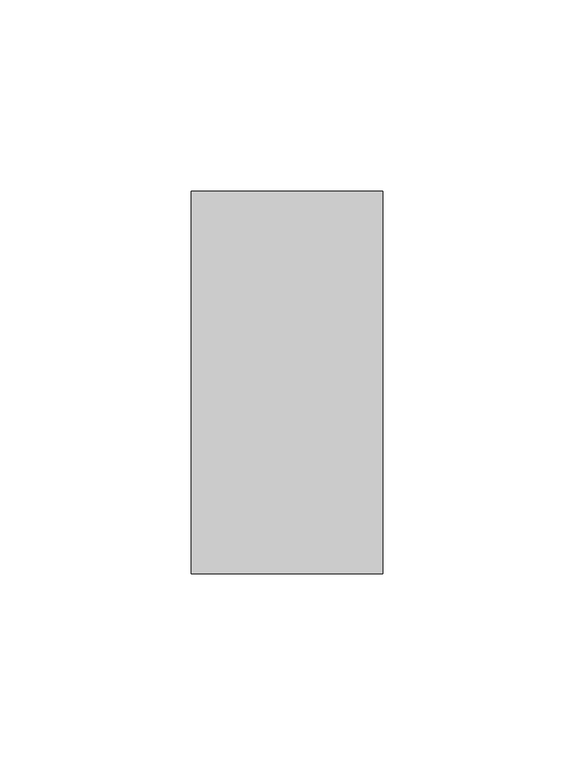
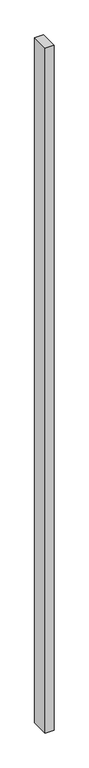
"""IFC4 building model written with IfcOpenShell, lengths in millimetres: member geometry, Прямоугольный импост : 50х100."""

import ifcopenshell
import ifcopenshell.guid

model = None  # the IFC model being written
_history = None  # IfcOwnerHistory: only IFC2X3 demands one
_inside = {}  # id of a spatial element -> (the spatial element, [elements in it])
_under = {}  # id of a project, library or spatial element -> (it, [spatial elements below it])
_declared = {}  # id of a project -> (the project, [libraries it declares])
_typed = {}  # id of a type object -> (the type object, [elements of that type])
_made_of = {}  # id of a material, layer set ... -> (it, [elements and type objects made of it])


def new_model(schema):
    """Start an empty IFC model of exactly this schema.

    Asked for "IFC4X3", IfcOpenShell would pick the latest addendum, in which some entities
    have other attributes; the version numbers below select the first issue.
    IFC2X3 requires an IfcOwnerHistory on every rooted entity: one is made here for all.
    """
    global model, _history
    if schema == "IFC4X3":
        model = ifcopenshell.file(schema_version=(4, 3, 0, 0))
    else:
        model = ifcopenshell.file(schema=schema)
    _inside.clear()
    _under.clear()
    _declared.clear()
    _typed.clear()
    _made_of.clear()
    _history = None
    if model.schema == "IFC2X3":
        org = make("IfcOrganization", Name="unknown")
        user = make(
            "IfcPersonAndOrganization",
            ThePerson=make("IfcPerson", FamilyName="unknown"),
            TheOrganization=org,
        )
        app = make(
            "IfcApplication",
            ApplicationDeveloper=org,
            Version="unknown",
            ApplicationFullName="unknown",
            ApplicationIdentifier="unknown",
        )
        _history = make(
            "IfcOwnerHistory",
            OwningUser=user,
            OwningApplication=app,
            ChangeAction="ADDED",
            CreationDate=0,
        )
    return model


def make(cls, **values):
    """One entity of the class cls with the attributes given. An attribute that is None is left unset."""
    return model.create_entity(
        cls, **{name: value for name, value in values.items() if value is not None}
    )


def rooted(cls, **values):
    """An entity with a GlobalId (a new one), such as an element, a storey or a relation."""
    return make(cls, GlobalId=ifcopenshell.guid.new(), OwnerHistory=_history, **values)


def si_unit(unit_type, name, prefix=None):
    """IfcSIUnit, for example si_unit("LENGTHUNIT", "METRE", prefix="MILLI")."""
    return make("IfcSIUnit", UnitType=unit_type, Prefix=prefix, Name=name)


def assignment(units):
    """IfcUnitAssignment: the units of a project."""
    return None if units is None else make("IfcUnitAssignment", Units=units)


def point(xyz):
    """IfcCartesianPoint."""
    return None if xyz is None else make("IfcCartesianPoint", Coordinates=xyz)


def direction(xyz):
    """IfcDirection."""
    return None if xyz is None else make("IfcDirection", DirectionRatios=xyz)


def frame(location, z_axis=None, x_axis=None):
    """IfcAxis2Placement3D, a coordinate frame: its origin and axes. An axis left out is left unset."""
    return make(
        "IfcAxis2Placement3D",
        Location=point(location),
        Axis=direction(z_axis),
        RefDirection=direction(x_axis),
    )


def origin():
    """The frame at (0, 0, 0) with its axes left unset."""
    return frame((0.0, 0.0, 0.0))


def place(relative_to, where):
    """IfcLocalPlacement: puts the frame where relative to a parent placement (None: the world)."""
    return make(
        "IfcLocalPlacement", PlacementRelTo=relative_to, RelativePlacement=where
    )


def context(
    kind, dimensions, precision=None, world=None, true_north=None, identifier=None
):
    """IfcGeometricRepresentationContext, for example the 3D "Model" context."""
    return make(
        "IfcGeometricRepresentationContext",
        ContextIdentifier=identifier,
        ContextType=kind,
        CoordinateSpaceDimension=dimensions,
        Precision=precision,
        WorldCoordinateSystem=world,
        TrueNorth=true_north,
    )


def project(units=None, contexts=None):
    """IfcProject with its units and contexts."""
    return rooted(
        "IfcProject",
        Name="project",
        RepresentationContexts=contexts,
        UnitsInContext=assignment(units),
    )


def spatial(cls, under=None, at=None, **own):
    """A site, building, storey or space (cls), placed at a placement, below another one or the project."""
    s = rooted(cls, ObjectPlacement=at, **own)
    if under is not None:
        _under.setdefault(under.id(), (under, []))[1].append(s)
    return s


def polyline(points):
    """IfcPolyline through the points."""
    return make("IfcPolyline", Points=[point(p) for p in points])


def outline(outer, holes=None, kind="AREA"):
    """IfcArbitraryClosedProfileDef: a profile drawn as a closed curve; with holes, ...WithVoids."""
    if holes is None:
        return make("IfcArbitraryClosedProfileDef", ProfileType=kind, OuterCurve=outer)
    return make(
        "IfcArbitraryProfileDefWithVoids",
        ProfileType=kind,
        OuterCurve=outer,
        InnerCurves=holes,
    )


def extrude(swept, where, along, depth):
    """IfcExtrudedAreaSolid: the profile swept, set in the frame where, extruded along a direction by depth."""
    return make(
        "IfcExtrudedAreaSolid",
        SweptArea=swept,
        Position=where,
        ExtrudedDirection=direction(along),
        Depth=depth,
    )


def shape(context_of_items, identifier, shape_type, items):
    """IfcShapeRepresentation: the items that make up one representation, for example the "Body"."""
    return make(
        "IfcShapeRepresentation",
        ContextOfItems=context_of_items,
        RepresentationIdentifier=identifier,
        RepresentationType=shape_type,
        Items=items,
    )


def source(mapping_origin, context_of_items, identifier, shape_type, items):
    """IfcRepresentationMap: a shape defined once, which mapped items show again and again."""
    return make(
        "IfcRepresentationMap",
        MappingOrigin=mapping_origin,
        MappedRepresentation=shape(context_of_items, identifier, shape_type, items),
    )


def transform(
    local_origin,
    x_axis=None,
    y_axis=None,
    z_axis=None,
    scale=None,
    scale2=None,
    scale3=None,
    uniform=True,
):
    """IfcCartesianTransformationOperator3D, or its non-uniform kind. x_axis, y_axis, z_axis: its Axis1, 2, 3."""
    if uniform:
        return make(
            "IfcCartesianTransformationOperator3D",
            Axis1=direction(x_axis),
            Axis2=direction(y_axis),
            LocalOrigin=point(local_origin),
            Scale=scale,
            Axis3=direction(z_axis),
        )
    return make(
        "IfcCartesianTransformationOperator3DnonUniform",
        Axis1=direction(x_axis),
        Axis2=direction(y_axis),
        LocalOrigin=point(local_origin),
        Scale=scale,
        Axis3=direction(z_axis),
        Scale2=scale2,
        Scale3=scale3,
    )


def mapped(mapping_source, mapping_target):
    """IfcMappedItem: shows the shape of a source again, moved by a transform."""
    return make(
        "IfcMappedItem", MappingSource=mapping_source, MappingTarget=mapping_target
    )


def made_of(thing, what):
    """Note that an element or type object is made of a material, layer set ...; save() writes the relation."""
    if what is not None:
        _made_of.setdefault(what.id(), (what, []))[1].append(thing)
    return thing


def element(
    cls,
    number,
    at=None,
    inside=None,
    cuts=None,
    type_object=None,
    material=None,
    context=None,
    identifier="Body",
    shape_type=None,
    held_by="IfcProductDefinitionShape",
    body=None,
    shapes=None,
    **own,
):
    """One element of the class cls, such as IfcWall. Its Tag is "e" and its number.

    at: its placement. inside: the storey or other place that contains it. cuts: it is an
    opening in that element (IfcRelVoidsElement). A single representation is given by context,
    identifier, shape_type and body (its items); several are given by shapes. held_by: the class
    of the entity that holds the representations. save() writes the other relations.
    """
    e = rooted(cls, Tag="e%d" % number, ObjectPlacement=at, **own)
    if body is not None:
        shapes = [shape(context, identifier, shape_type, body)]
    if shapes is not None:
        e.Representation = make(held_by, Representations=shapes)
    if inside is not None:
        _inside.setdefault(inside.id(), (inside, []))[1].append(e)
    if cuts is not None:
        rooted(
            "IfcRelVoidsElement", RelatingBuildingElement=cuts, RelatedOpeningElement=e
        )
    if type_object is not None:
        _typed.setdefault(type_object.id(), (type_object, []))[1].append(e)
    return made_of(e, material)


def aggregate(whole, parts):
    """IfcRelAggregates: a whole, such as a stair, and the parts it consists of."""
    return rooted("IfcRelAggregates", RelatingObject=whole, RelatedObjects=parts)


def save(model, path):
    """Write the relations noted so far, then the file.

    IfcRelAggregates (storeys below a building ...), IfcRelContainedInSpatialStructure (elements
    in a storey), IfcRelDefinesByType, IfcRelAssociatesMaterial and IfcRelDeclares: one each for
    every whole, place, type object, material and project.
    """
    for whole, parts in _under.values():
        aggregate(whole, parts)
    for where, things in _inside.values():
        rooted(
            "IfcRelContainedInSpatialStructure",
            RelatedElements=things,
            RelatingStructure=where,
        )
    for kind, things in _typed.values():
        rooted("IfcRelDefinesByType", RelatedObjects=things, RelatingType=kind)
    for what, things in _made_of.values():
        rooted("IfcRelAssociatesMaterial", RelatedObjects=things, RelatingMaterial=what)
    for by, libraries in _declared.values():
        rooted("IfcRelDeclares", RelatingContext=by, RelatedDefinitions=libraries)
    model.write(path)


def member_f1c2b1b4(model_context):
    return source(origin(), model_context, "Body", "SweptSolid", [
        extrude(outline(polyline([(0.0, 50.0), (0.0, -50.0), (-50.0, -50.0), (-50.0, 50.0), (0.0, 50.0)])), frame((0.0, 0.0, -4000.0), z_axis=(0.0, 0.0, 1.0), x_axis=(1.0, 0.0, 0.0)), (0.0, 0.0, 1.0), 4000.0),
    ])


if __name__ == "__main__":
    model = new_model("IFC4")
    model_context = context("Model", 3, world=origin())
    ifc_project = project(units=[si_unit("LENGTHUNIT", "METRE", prefix="MILLI")], contexts=[model_context])
    site = spatial("IfcSite", under=ifc_project)
    building = spatial("IfcBuilding", under=site)
    placement = place(None, origin())
    member_shape = member_f1c2b1b4(model_context)
    element("IfcMember", 1, ObjectType="Прямоугольный импост : 50х100", at=placement, inside=building, context=model_context, shape_type="MappedRepresentation", body=[
        mapped(member_shape, transform((0.0, 0.0, 0.0), x_axis=(1.0, 0.0, 0.0), y_axis=(0.0, 1.0, 0.0), z_axis=(0.0, 0.0, 1.0))),
    ])
    save(model, "model.ifc")
